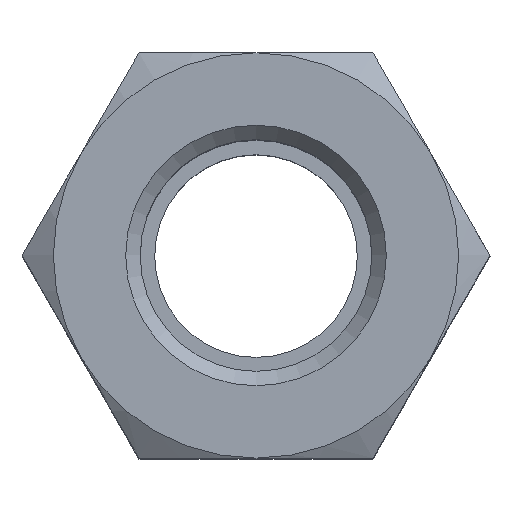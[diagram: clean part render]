
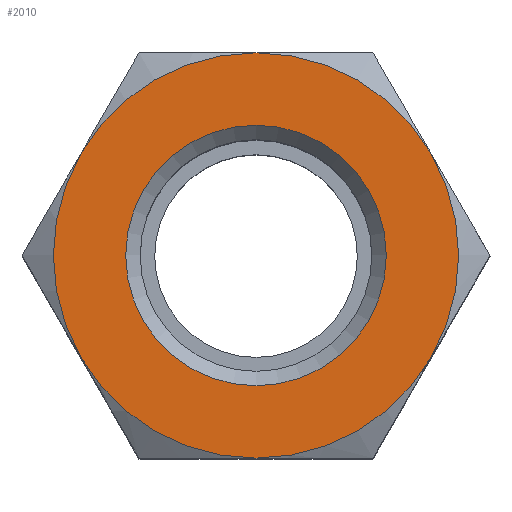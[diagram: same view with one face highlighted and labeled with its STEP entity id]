
A CAD part, top view. The second image highlights one B-rep face of the part: STEP entity #2010.
In plain terms, the highlighted planar face has unit normal (0, 0, 1).
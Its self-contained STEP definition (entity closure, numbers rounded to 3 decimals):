
#2010=ADVANCED_FACE('', (#2020,#2030), #2040, .T.);
#6690=AXIS2_PLACEMENT_3D('Ax2Pl3d', #6700, #6710, #6720);
#6730=AXIS2_PLACEMENT_3D('Ax2Pl3d', #6740, #6750, #6760);
#6770=AXIS2_PLACEMENT_3D('Ax2Pl3d', #6780, #6790, #6800);
#6810=AXIS2_PLACEMENT_3D('Ax2Pl3d', #6820, #6830, #6840);
#6850=AXIS2_PLACEMENT_3D('Ax2Pl3d', #6860, #6870, #6880);
#6890=AXIS2_PLACEMENT_3D('Ax2Pl3d', #6900, #6910, #6920);
#6930=AXIS2_PLACEMENT_3D('Ax2Pl3d', #6940, #6950, #6960);
#6970=AXIS2_PLACEMENT_3D('Ax2Pl3d', #6980, #6990, #7000);
#11000=CARTESIAN_POINT('', (8.4,16.854,37.275));
#11030=CARTESIAN_POINT('', (14.463,20.354,37.275));
#11060=CARTESIAN_POINT('', (20.525,16.854,37.275));
#11090=CARTESIAN_POINT('', (20.525,9.854,37.275))
;
#11120=CARTESIAN_POINT('', (14.463,6.354,37.275));
#11130=CARTESIAN_POINT('', (8.4,9.854,37.275));
#6700=CARTESIAN_POINT('HicPkt', (14.463,13.354,
37.275));
#6740=CARTESIAN_POINT('HicPkt', (21.463,13.354,
37.275));
#6780=CARTESIAN_POINT('HicPkt', (14.463,13.354,
37.275));
#6820=CARTESIAN_POINT('HicPkt', (14.463,13.354,
37.275));
#6860=CARTESIAN_POINT('HicPkt', (14.463,13.354,
37.275));
#6900=CARTESIAN_POINT('HicPkt', (14.463,13.354,
37.275));
#6940=CARTESIAN_POINT('HicPkt', (14.463,13.354,
37.275));
#6980=CARTESIAN_POINT('HicPkt', (14.463,13.354,
37.275));
#11140=CARTESIAN_POINT('', (14.463,17.854,37.275));
#11640=CIRCLE('Circle', #6690, 7.);
#11650=CIRCLE('Circle', #6770, 7.);
#11660=CIRCLE('Circle', #6810, 7.);
#11670=CIRCLE('Circle', #6850, 7.);
#11680=CIRCLE('Circle', #6890, 7.);
#11690=CIRCLE('Circle', #6930, 7.);
#11700=CIRCLE('Circle', #6970, 4.5);
#6710=DIRECTION('Axis', (0.,0.,-1.));
#6720=DIRECTION('RefDirection', (-1.,-0.,0.));
#6750=DIRECTION('Axis', (0.,0.,1.));
#6760=DIRECTION('RefDirection', (1.,0.,-0.));
#6790=DIRECTION('Axis', (0.,0.,-1.));
#6800=DIRECTION('RefDirection', (-1.,-0.,0.));
#6830=DIRECTION('Axis', (0.,0.,-1.));
#6840=DIRECTION('RefDirection', (-1.,-0.,0.));
#6870=DIRECTION('Axis', (0.,0.,-1.));
#6880=DIRECTION('RefDirection', (-1.,-0.,0.));
#6910=DIRECTION('Axis', (0.,0.,-1.));
#6920=DIRECTION('RefDirection', (-1.,-0.,0.));
#6950=DIRECTION('Axis', (0.,0.,-1.));
#6960=DIRECTION('RefDirection', (-1.,-0.,0.));
#6990=DIRECTION('Axis', (0.,0.,-1.));
#7000=DIRECTION('RefDirection', (-1.,-0.,0.));
#18100=EDGE_CURVE('', #17990, #18050, #11640, .T.);
#18110=EDGE_CURVE('', #17930, #17990, #11650, .T.);
#18120=EDGE_CURVE('', #17870, #17930, #11660, .T.);
#18130=EDGE_CURVE('', #17810, #17870, #11670, .T.);
#18140=EDGE_CURVE('', #18080, #17810, #11680, .T.);
#18150=EDGE_CURVE('', #18050, #18080, #11690, .T.);
#18160=EDGE_CURVE('', #18170, #18170, #11700, .T.);
#21150=EDGE_LOOP('Edge_loop', (#21160,#21170,#21180,#21190,#21200,
#21210));
#21220=EDGE_LOOP('Edge_loop', (#21230));
#2030=FACE_BOUND('', #21220, .T.);
#2020=FACE_OUTER_BOUND('Face_outer_bound', #21150, .T.);
#21160=ORIENTED_EDGE('', *, *, #18100, .F.);
#21170=ORIENTED_EDGE('', *, *, #18110, .F.);
#21180=ORIENTED_EDGE('', *, *, #18120, .F.);
#21190=ORIENTED_EDGE('', *, *, #18130, .F.);
#21200=ORIENTED_EDGE('', *, *, #18140, .F.);
#21210=ORIENTED_EDGE('', *, *, #18150, .F.);
#21230=ORIENTED_EDGE('', *, *, #18160, .T.);
#2040=PLANE('Plane', #6730);
#17810=VERTEX_POINT('', #11000);
#17870=VERTEX_POINT('', #11030);
#17930=VERTEX_POINT('', #11060);
#17990=VERTEX_POINT('', #11090);
#18050=VERTEX_POINT('', #11120);
#18080=VERTEX_POINT('', #11130);
#18170=VERTEX_POINT('', #11140);
